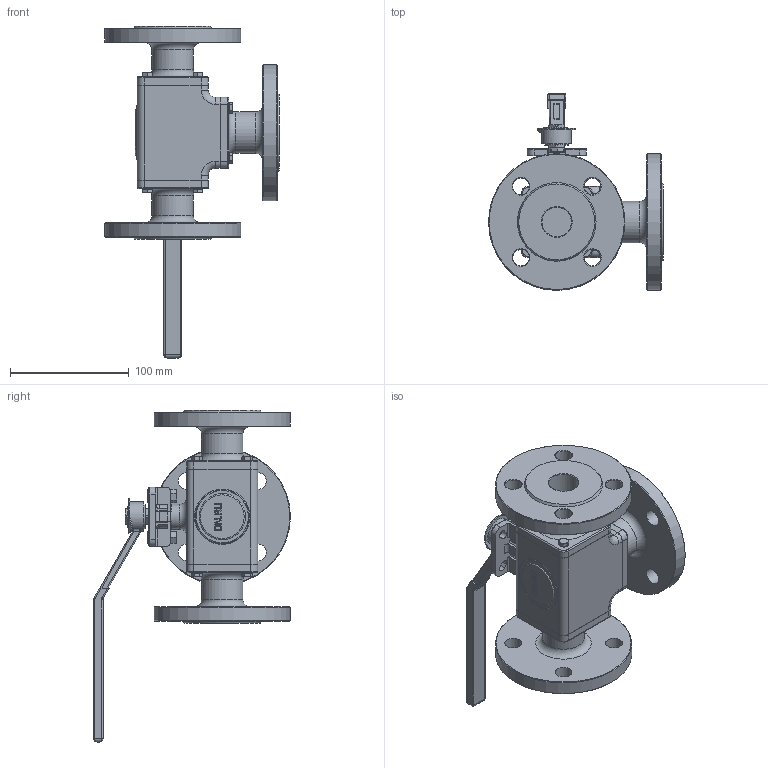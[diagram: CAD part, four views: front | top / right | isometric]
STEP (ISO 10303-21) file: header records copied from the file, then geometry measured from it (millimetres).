
FILE_DESCRIPTION(('STEP AP242'), '1');
FILE_NAME('BV3232P(4pc)-FP-3WT-F-ISO-H Êðàí øàðîâîé DN.ru Äó25 Ðó16', '', ('UNSPECIFIED'), ('UNSPECIFIED'), 'C3D Converter', 'C3D Toolkit', '');
FILE_SCHEMA(('AP242_MANAGED_MODEL_BASED_3D_ENGINEERING_MIM_LF { 1 0 10303 442 1 1 4 }'));
Length unit declared in the file: millimetre
Products named in the file (1): BV3232P(4pc)-FP-3WT-F-ISO-H
Bounding box: 147.5 x 166 x 280 mm (x, y, z)
Volume: 848477.8 mm3; surface area: 167416.9 mm2
Topology: 1 solids, 14 shells, 903 faces, 2168 edges, 1342 vertices
Faces by surface type: plane 461, cylinder 205, cone 136, bspline 59, torus 42
Full cylindrical faces by diameter (mm): 1.119 x2, 2 x1, 4.917 x2, 5 x24, 6 x14, 8 x12, 10 x2, 14 x12, 16 x1, 20 x1, 20.905 x1, 25 x4, 30 x3, 35 x3, 115 x3
Entity records: 43247 total; most frequent: CARTESIAN_POINT 18823, ORIENTED_EDGE 4078, DIRECTION 4004, EDGE_CURVE 2039, AXIS2_PLACEMENT_3D 1513, VERTEX_POINT 1342, EDGE_LOOP 1173, LINE 978
